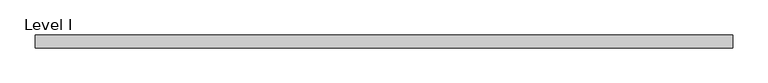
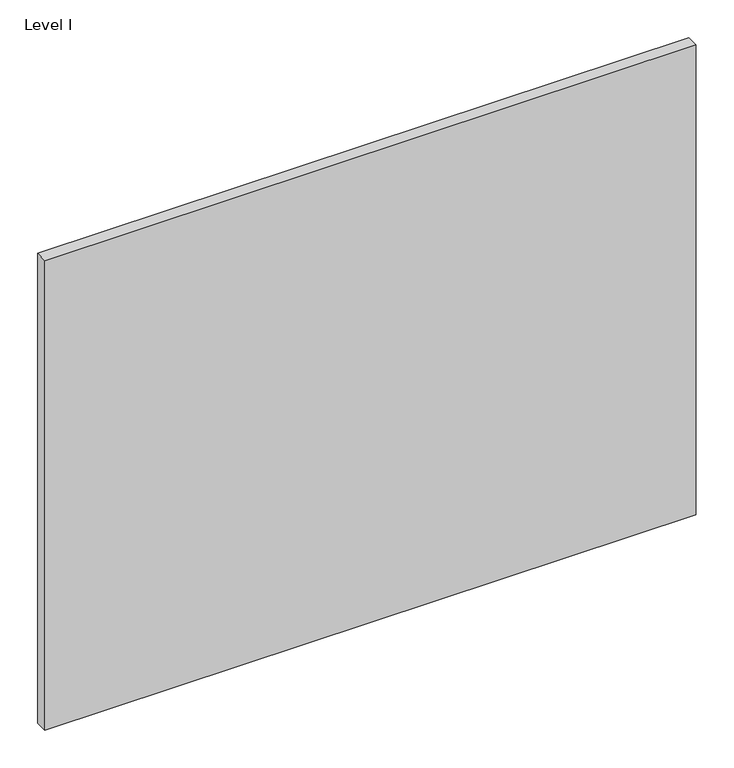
"""IFC4 building model written with IfcOpenShell, lengths in millimetres: proxy geometry, Panel-Fascia-Teknion-Altos-Standard : Level I."""

from ifc_helpers import new_model, si_unit, frame, origin, place, context, project, spatial, polyline, outline, extrude, source, transform, mapped, element, save


def level_i_259d5150(model_context):
    return source(origin(), model_context, "Body", "SweptSolid", [
        extrude(outline(polyline([(498.4198344, 9.525), (498.4198344, -9.525), (-498.4198344, -9.525), (-498.4198344, 9.525), (498.4198344, 9.525)])), frame((0.0, 0.0, 3.175), z_axis=(0.0, 0.0, 1.0), x_axis=(1.0, 0.0, 0.0)), (0.0, 0.0, 1.0), 759.968),
    ])


if __name__ == "__main__":
    model = new_model("IFC4")
    model_context = context("Model", 3, world=origin())
    ifc_project = project(units=[si_unit("LENGTHUNIT", "METRE", prefix="MILLI")], contexts=[model_context])
    site = spatial("IfcSite", under=ifc_project)
    building = spatial("IfcBuilding", under=site)
    placement = place(None, origin())
    level_i_shape = level_i_259d5150(model_context)
    element("IfcBuildingElementProxy", 1, Name="Panel-Fascia-Teknion-Altos-Standard : Level I", ObjectType="Panel-Fascia-Teknion-Altos-Standard : Level I", at=placement, inside=building, context=model_context, shape_type="MappedRepresentation", body=[
        mapped(level_i_shape, transform((0.0, 0.0, 0.0), x_axis=(1.0, 0.0, 0.0), y_axis=(0.0, 1.0, 0.0), z_axis=(0.0, 0.0, 1.0))),
    ])
    save(model, "model.ifc")
